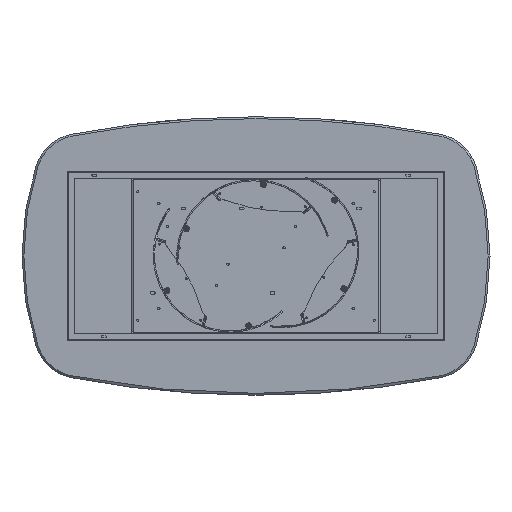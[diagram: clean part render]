
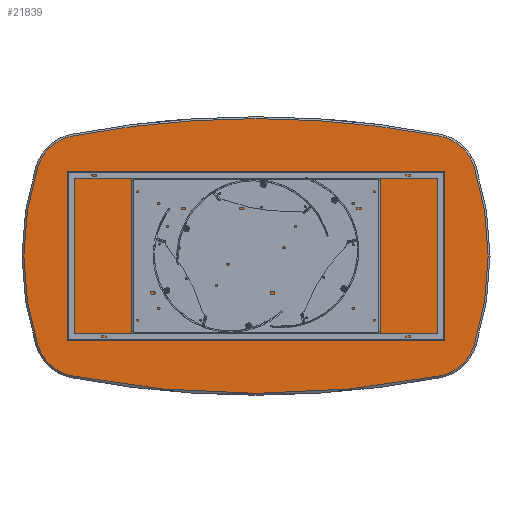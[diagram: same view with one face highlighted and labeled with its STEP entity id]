
A CAD part, front view. The second image highlights one B-rep face of the part: STEP entity #21839.
In plain terms, the highlighted planar face has unit normal (0, -1, 0).
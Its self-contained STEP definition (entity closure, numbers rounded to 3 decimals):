
#305 = CARTESIAN_POINT ( 'NONE',  ( 932., 0., -382.936 ) ) ;
#329 = FACE_OUTER_BOUND ( 'NONE', #11813, .T. ) ;
#456 = DIRECTION ( 'NONE',  ( 0., 0., 1. ) ) ;
#824 = AXIS2_PLACEMENT_3D ( 'NONE', #2514, #7290, #9312 ) ;
#1159 = VERTEX_POINT ( 'NONE', #13225 ) ;
#1508 = DIRECTION ( 'NONE',  ( 0., -1., 0. ) ) ;
#1928 = ORIENTED_EDGE ( 'NONE', *, *, #19390, .T. ) ;
#1944 = CARTESIAN_POINT ( 'NONE',  ( 0., 0., -3605. ) ) ;
#2249 = EDGE_CURVE ( 'NONE', #4868, #9906, #3100, .T. ) ;
#2354 = DIRECTION ( 'NONE',  ( 0., 0., 1. ) ) ;
#2390 = ORIENTED_EDGE ( 'NONE', *, *, #10462, .T. ) ;
#2514 = CARTESIAN_POINT ( 'NONE',  ( 0., 0., 3605. ) ) ;
#2952 = CARTESIAN_POINT ( 'NONE',  ( 932., 0., 382.936 ) ) ;
#3100 = CIRCLE ( 'NONE', #14510, 4192. ) ;
#3691 = PLANE ( 'NONE',  #10542 ) ;
#4868 = VERTEX_POINT ( 'NONE', #18427 ) ;
#4952 = VERTEX_POINT ( 'NONE', #11870 ) ;
#4988 = ORIENTED_EDGE ( 'NONE', *, *, #10226, .T. ) ;
#5009 = CARTESIAN_POINT ( 'NONE',  ( 749.201, 0., -324.211 ) ) ;
#5129 = DIRECTION ( 'NONE',  ( 0., 0., 1. ) ) ;
#5172 = DIRECTION ( 'NONE',  ( 0., 0., 1. ) ) ;
#5428 = CIRCLE ( 'NONE', #20724, 1252. ) ;
#5574 = CARTESIAN_POINT ( 'NONE',  ( -749.201, 0., -324.211 ) ) ;
#5677 = DIRECTION ( 'NONE',  ( 0., -1., 0. ) ) ;
#6146 = EDGE_CURVE ( 'NONE', #6885, #18711, #21513, .T. ) ;
#6286 = CIRCLE ( 'NONE', #18744, 192. ) ;
#6885 = VERTEX_POINT ( 'NONE', #11378 ) ;
#6891 = DIRECTION ( 'NONE',  ( 0., -1., 0. ) ) ;
#7166 = CARTESIAN_POINT ( 'NONE',  ( 749.201, 0., 324.211 ) ) ;
#7221 = ORIENTED_EDGE ( 'NONE', *, *, #9235, .T. ) ;
#7290 = DIRECTION ( 'NONE',  ( 0., -1., 0. ) ) ;
#7701 = ORIENTED_EDGE ( 'NONE', *, *, #2249, .T. ) ;
#7863 = CARTESIAN_POINT ( 'NONE',  ( 260., 0., 0. ) ) ;
#8488 = CARTESIAN_POINT ( 'NONE',  ( -260., 0., 0. ) ) ;
#8658 = ORIENTED_EDGE ( 'NONE', *, *, #20640, .T. ) ;
#8730 = CARTESIAN_POINT ( 'NONE',  ( -749.201, 0., 324.211 ) ) ;
#9235 = EDGE_CURVE ( 'NONE', #16600, #17658, #16105, .T. ) ;
#9271 = DIRECTION ( 'NONE',  ( 0., -1., 0. ) ) ;
#9312 = DIRECTION ( 'NONE',  ( 0., 0., 1. ) ) ;
#9384 = AXIS2_PLACEMENT_3D ( 'NONE', #1944, #10291, #10190 ) ;
#9883 = ORIENTED_EDGE ( 'NONE', *, *, #21520, .T. ) ;
#9906 = VERTEX_POINT ( 'NONE', #15019 ) ;
#9961 = DIRECTION ( 'NONE',  ( 0., -1., 0. ) ) ;
#10190 = DIRECTION ( 'NONE',  ( 0., 0., 1. ) ) ;
#10226 = EDGE_CURVE ( 'NONE', #14215, #4952, #14015, .T. ) ;
#10291 = DIRECTION ( 'NONE',  ( 0., -1., 0. ) ) ;
#10450 = CIRCLE ( 'NONE', #9384, 4192. ) ;
#10462 = EDGE_CURVE ( 'NONE', #9906, #6885, #10450, .T. ) ;
#10512 = AXIS2_PLACEMENT_3D ( 'NONE', #5574, #6891, #456 ) ;
#10542 = AXIS2_PLACEMENT_3D ( 'NONE', #20389, #15507, #5129 ) ;
#11378 = CARTESIAN_POINT ( 'NONE',  ( -785.163, 0., 512.813 ) ) ;
#11813 = EDGE_LOOP ( 'NONE', ( #1928, #4988, #8658, #7221, #9883, #7701, #2390, #19361, #15781 ) ) ;
#11822 = DIRECTION ( 'NONE',  ( 0., -1., 0. ) ) ;
#11870 = CARTESIAN_POINT ( 'NONE',  ( 785.163, 0., -512.813 ) ) ;
#12922 = DIRECTION ( 'NONE',  ( 0., 0., 1. ) ) ;
#13225 = CARTESIAN_POINT ( 'NONE',  ( -932., 0., -382.936 ) ) ;
#13740 = AXIS2_PLACEMENT_3D ( 'NONE', #5009, #11822, #18609 ) ;
#14015 = CIRCLE ( 'NONE', #824, 4192. ) ;
#14215 = VERTEX_POINT ( 'NONE', #18894 ) ;
#14434 = CIRCLE ( 'NONE', #10512, 192. ) ;
#14510 = AXIS2_PLACEMENT_3D ( 'NONE', #21053, #5677, #2354 ) ;
#14582 = DIRECTION ( 'NONE',  ( 0., -1., 0. ) ) ;
#14774 = AXIS2_PLACEMENT_3D ( 'NONE', #8730, #1508, #5172 ) ;
#15019 = CARTESIAN_POINT ( 'NONE',  ( 0., 0., 587. ) ) ;
#15358 = EDGE_CURVE ( 'NONE', #18711, #1159, #5428, .T. ) ;
#15507 = DIRECTION ( 'NONE',  ( 0., 1., 0. ) ) ;
#15781 = ORIENTED_EDGE ( 'NONE', *, *, #15358, .T. ) ;
#16105 = CIRCLE ( 'NONE', #21062, 1252. ) ;
#16600 = VERTEX_POINT ( 'NONE', #305 ) ;
#16871 = CARTESIAN_POINT ( 'NONE',  ( -932., 0., 382.936 ) ) ;
#16978 = DIRECTION ( 'NONE',  ( 0., 0., 1. ) ) ;
#17645 = CIRCLE ( 'NONE', #13740, 192. ) ;
#17658 = VERTEX_POINT ( 'NONE', #2952 ) ;
#18427 = CARTESIAN_POINT ( 'NONE',  ( 785.163, 0., 512.813 ) ) ;
#18609 = DIRECTION ( 'NONE',  ( 0., 0., 1. ) ) ;
#18711 = VERTEX_POINT ( 'NONE', #16871 ) ;
#18744 = AXIS2_PLACEMENT_3D ( 'NONE', #7166, #9271, #20542 ) ;
#18894 = CARTESIAN_POINT ( 'NONE',  ( -785.163, 0., -512.813 ) ) ;
#19361 = ORIENTED_EDGE ( 'NONE', *, *, #6146, .T. ) ;
#19390 = EDGE_CURVE ( 'NONE', #1159, #14215, #14434, .T. ) ;
#20389 = CARTESIAN_POINT ( 'NONE',  ( -130., 0., 1802.5 ) ) ;
#20542 = DIRECTION ( 'NONE',  ( 0., 0., 1. ) ) ;
#20640 = EDGE_CURVE ( 'NONE', #4952, #16600, #17645, .T. ) ;
#20724 = AXIS2_PLACEMENT_3D ( 'NONE', #7863, #14582, #12922 ) ;
#21053 = CARTESIAN_POINT ( 'NONE',  ( 0., 0., -3605. ) ) ;
#21062 = AXIS2_PLACEMENT_3D ( 'NONE', #8488, #9961, #16978 ) ;
#21513 = CIRCLE ( 'NONE', #14774, 192. ) ;
#21520 = EDGE_CURVE ( 'NONE', #17658, #4868, #6286, .T. ) ;
#21839 = ADVANCED_FACE ( 'NONE', ( #329 ), #3691, .F. ) ;
